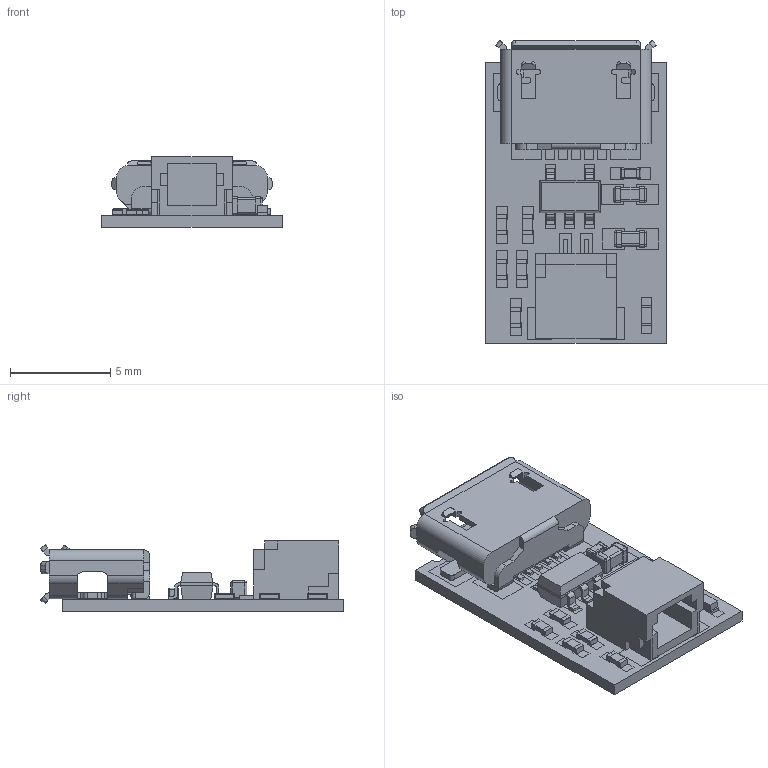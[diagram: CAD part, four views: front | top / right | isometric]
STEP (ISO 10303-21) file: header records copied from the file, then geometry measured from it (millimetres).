
FILE_DESCRIPTION(('FreeCAD Model'),'2;1');
FILE_NAME('/home/devy/MEGA/TinyCircuits/Assets/BoardsANDBoardModels_2/TinyLily/TinyCircuits-Tiny_Peripherals-Batt_Charger-ASL2112/cad/TinyLily_CHARGER_ASl2112_REV2-STEP.step', '2020-08-28T03:26:46',('Author'),(''), 'Open CASCADE STEP processor 7.4','FreeCAD','Unknown');
FILE_SCHEMA(('AUTOMOTIVE_DESIGN { 1 0 10303 214 1 1 1 1 }'));
Products named in the file (1): TinyLily_CHARGER_ASl2112_REV2-STEP
Bounding box: 9 x 15.07 x 3.5 mm (x, y, z)
Volume: 265.9 mm3; surface area: 1178.4 mm2
Topology: 95 solids, 115 shells, 1214 faces, 3535 edges, 3073 vertices
Faces by surface type: plane 974, cylinder 208, sphere 32
Full cylindrical faces by diameter (mm): 0.891 x8, 1.397 x4
Entity records: 90424 total; most frequent: CARTESIAN_POINT 16342, DIRECTION 11760, LINE 7809, VECTOR 7809, ORIENTED_EDGE 5752, PCURVE 5752, DEFINITIONAL_REPRESENTATION 5752, EDGE_CURVE 2895
